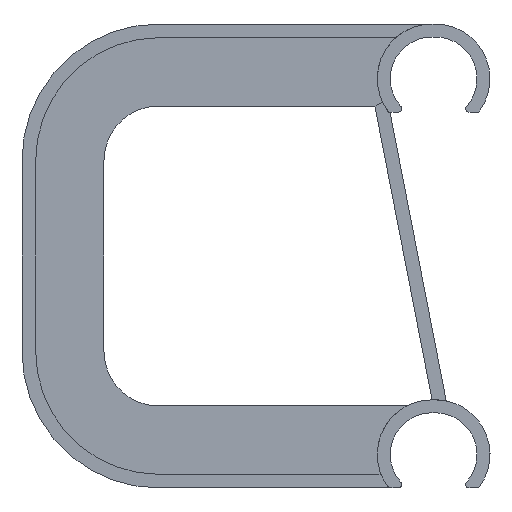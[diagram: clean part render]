
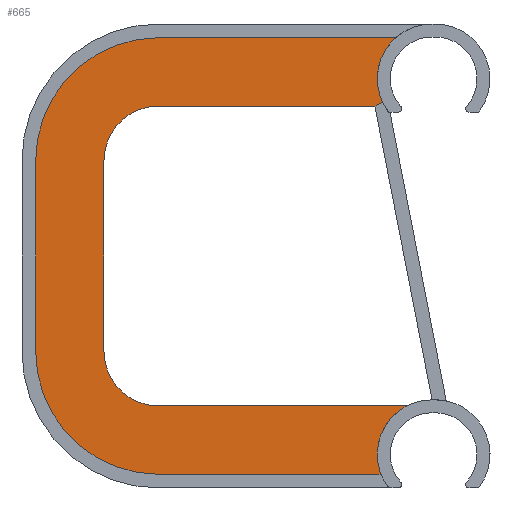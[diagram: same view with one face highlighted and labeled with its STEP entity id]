
A CAD part, front view. The second image highlights one B-rep face of the part: STEP entity #665.
In plain terms, the highlighted planar face has unit normal (0, -1, 0).
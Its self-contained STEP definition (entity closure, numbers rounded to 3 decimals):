
#2 = EDGE_CURVE ( 'NONE', #283, #284, #46, .T. ) ;
#46 = LINE ( 'NONE', #250, #1069 ) ;
#102 = ORIENTED_EDGE ( 'NONE', *, *, #594, .T. ) ;
#103 = ORIENTED_EDGE ( 'NONE', *, *, #239, .T. ) ;
#104 = ORIENTED_EDGE ( 'NONE', *, *, #247, .T. ) ;
#105 = ORIENTED_EDGE ( 'NONE', *, *, #2, .T. ) ;
#106 = ORIENTED_EDGE ( 'NONE', *, *, #246, .T. ) ;
#107 = ORIENTED_EDGE ( 'NONE', *, *, #684, .T. ) ;
#108 = ORIENTED_EDGE ( 'NONE', *, *, #685, .T. ) ;
#109 = ORIENTED_EDGE ( 'NONE', *, *, #686, .T. ) ;
#110 = ORIENTED_EDGE ( 'NONE', *, *, #687, .T. ) ;
#111 = ORIENTED_EDGE ( 'NONE', *, *, #220, .T. ) ;
#112 = ORIENTED_EDGE ( 'NONE', *, *, #601, .T. ) ;
#113 = ORIENTED_EDGE ( 'NONE', *, *, #603, .T. ) ;
#114 = ORIENTED_EDGE ( 'NONE', *, *, #599, .T. ) ;
#220 = EDGE_CURVE ( 'NONE', #335, #363, #1135, .T. ) ;
#239 = EDGE_CURVE ( 'NONE', #251, #282, #1173, .T. ) ;
#246 = EDGE_CURVE ( 'NONE', #284, #285, #1181, .T. ) ;
#247 = EDGE_CURVE ( 'NONE', #282, #283, #1183, .T. ) ;
#250 = CARTESIAN_POINT ( 'NONE',  ( -5.792, 9., 61. ) ) ;
#251 = VERTEX_POINT ( 'NONE', #536 ) ;
#277 = VERTEX_POINT ( 'NONE', #1449 ) ;
#282 = VERTEX_POINT ( 'NONE', #1454 ) ;
#283 = VERTEX_POINT ( 'NONE', #1455 ) ;
#284 = VERTEX_POINT ( 'NONE', #1456 ) ;
#285 = VERTEX_POINT ( 'NONE', #1457 ) ;
#286 = VERTEX_POINT ( 'NONE', #1458 ) ;
#287 = VERTEX_POINT ( 'NONE', #1459 ) ;
#288 = VERTEX_POINT ( 'NONE', #1460 ) ;
#335 = VERTEX_POINT ( 'NONE', #1507 ) ;
#337 = VERTEX_POINT ( 'NONE', #1509 ) ;
#338 = VERTEX_POINT ( 'NONE', #1510 ) ;
#363 = VERTEX_POINT ( 'NONE', #1535 ) ;
#364 = DIRECTION ( 'NONE',  ( -1., 0., 0. ) ) ;
#472 = CARTESIAN_POINT ( 'NONE',  ( -26.25, 9., 7.1 ) ) ;
#475 = DIRECTION ( 'NONE',  ( -1., 0., 0. ) ) ;
#521 = CARTESIAN_POINT ( 'NONE',  ( -8.846, 9., 51. ) ) ;
#522 = DIRECTION ( 'NONE',  ( 0.902, 0., 0.432 ) ) ;
#523 = CARTESIAN_POINT ( 'NONE',  ( -0.5, 9., 55. ) ) ;
#531 = CARTESIAN_POINT ( 'NONE',  ( -40.5, 9., 43. ) ) ;
#533 = DIRECTION ( 'NONE',  ( 0., -1., 0. ) ) ;
#534 = DIRECTION ( 'NONE',  ( 1., 0., 0. ) ) ;
#536 = CARTESIAN_POINT ( 'NONE',  ( -8.846, 9., 51. ) ) ;
#537 = DIRECTION ( 'NONE',  ( 0., 1., 0. ) ) ;
#538 = DIRECTION ( 'NONE',  ( 1., 0., 0. ) ) ;
#594 = EDGE_CURVE ( 'NONE', #277, #251, #1242, .T. ) ;
#599 = EDGE_CURVE ( 'NONE', #338, #277, #1251, .T. ) ;
#601 = EDGE_CURVE ( 'NONE', #363, #337, #1255, .T. ) ;
#603 = EDGE_CURVE ( 'NONE', #337, #338, #1256, .T. ) ;
#665 = ADVANCED_FACE ( 'NONE', ( #1356 ), #1823, .T. ) ;
#684 = EDGE_CURVE ( 'NONE', #285, #286, #1380, .T. ) ;
#685 = EDGE_CURVE ( 'NONE', #286, #287, #1385, .T. ) ;
#686 = EDGE_CURVE ( 'NONE', #287, #288, #1382, .T. ) ;
#687 = EDGE_CURVE ( 'NONE', #288, #335, #1387, .T. ) ;
#747 = AXIS2_PLACEMENT_3D ( 'NONE', #531, #533, #534 ) ;
#749 = AXIS2_PLACEMENT_3D ( 'NONE', #523, #537, #538 ) ;
#759 = AXIS2_PLACEMENT_3D ( 'NONE', #1637, #1639, #1640 ) ;
#762 = AXIS2_PLACEMENT_3D ( 'NONE', #1631, #1632, #1633 ) ;
#766 = AXIS2_PLACEMENT_3D ( 'NONE', #1879, #1883, #1884 ) ;
#769 = AXIS2_PLACEMENT_3D ( 'NONE', #1881, #1888, #1889 ) ;
#805 = AXIS2_PLACEMENT_3D ( 'NONE', #1822, #1825, #1826 ) ;
#931 = EDGE_LOOP ( 'NONE', ( #102, #103, #104, #105, #106, #107, #108, #109, #110, #111, #112, #113, #114 ) ) ;
#1069 = VECTOR ( 'NONE', #364, 1000. ) ;
#1135 = LINE ( 'NONE', #472, #1138 ) ;
#1138 = VECTOR ( 'NONE', #475, 1000. ) ;
#1173 = LINE ( 'NONE', #521, #1174 ) ;
#1174 = VECTOR ( 'NONE', #522, 1000. ) ;
#1181 = CIRCLE ( 'NONE', #747, 18. ) ;
#1183 = CIRCLE ( 'NONE', #749, 8. ) ;
#1242 = LINE ( 'NONE', #1621, #1243 ) ;
#1243 = VECTOR ( 'NONE', #1622, 1000. ) ;
#1251 = CIRCLE ( 'NONE', #762, 8. ) ;
#1253 = VECTOR ( 'NONE', #1644, 1000. ) ;
#1255 = CIRCLE ( 'NONE', #759, 8. ) ;
#1256 = LINE ( 'NONE', #1638, #1253 ) ;
#1356 = FACE_OUTER_BOUND ( 'NONE', #931, .T. ) ;
#1379 = VECTOR ( 'NONE', #1882, 1000. ) ;
#1380 = LINE ( 'NONE', #1875, #1379 ) ;
#1381 = VECTOR ( 'NONE', #1886, 1000. ) ;
#1382 = LINE ( 'NONE', #1885, #1381 ) ;
#1385 = CIRCLE ( 'NONE', #766, 18. ) ;
#1387 = CIRCLE ( 'NONE', #769, 8. ) ;
#1449 = CARTESIAN_POINT ( 'NONE',  ( -40.5, 9., 51. ) ) ;
#1454 = CARTESIAN_POINT ( 'NONE',  ( -7.714, 9., 51.542 ) ) ;
#1455 = CARTESIAN_POINT ( 'NONE',  ( -5.792, 9., 61. ) ) ;
#1456 = CARTESIAN_POINT ( 'NONE',  ( -40.5, 9., 61. ) ) ;
#1457 = CARTESIAN_POINT ( 'NONE',  ( -58.5, 9., 43. ) ) ;
#1458 = CARTESIAN_POINT ( 'NONE',  ( -58.5, 9., 15.1 ) ) ;
#1459 = CARTESIAN_POINT ( 'NONE',  ( -40.5, 9., -2.9 ) ) ;
#1460 = CARTESIAN_POINT ( 'NONE',  ( -7.956, 9., -2.9 ) ) ;
#1507 = CARTESIAN_POINT ( 'NONE',  ( -4.186, 9., 7.1 ) ) ;
#1509 = CARTESIAN_POINT ( 'NONE',  ( -48.5, 9., 15.1 ) ) ;
#1510 = CARTESIAN_POINT ( 'NONE',  ( -48.5, 9., 43. ) ) ;
#1535 = CARTESIAN_POINT ( 'NONE',  ( -40.5, 9., 7.1 ) ) ;
#1621 = CARTESIAN_POINT ( 'NONE',  ( -26.25, 9., 51. ) ) ;
#1622 = DIRECTION ( 'NONE',  ( 1., 0., 0. ) ) ;
#1631 = CARTESIAN_POINT ( 'NONE',  ( -40.5, 9., 43. ) ) ;
#1632 = DIRECTION ( 'NONE',  ( 0., 1., 0. ) ) ;
#1633 = DIRECTION ( 'NONE',  ( 1., 0., 0. ) ) ;
#1637 = CARTESIAN_POINT ( 'NONE',  ( -40.5, 9., 15.1 ) ) ;
#1638 = CARTESIAN_POINT ( 'NONE',  ( -48.5, 9., -46.112 ) ) ;
#1639 = DIRECTION ( 'NONE',  ( 0., 1., 0. ) ) ;
#1640 = DIRECTION ( 'NONE',  ( 1., 0., 0. ) ) ;
#1644 = DIRECTION ( 'NONE',  ( 0., 0., 1. ) ) ;
#1822 = CARTESIAN_POINT ( 'NONE',  ( -0.5, 9., 55. ) ) ;
#1823 = PLANE ( 'NONE',  #805 ) ;
#1825 = DIRECTION ( 'NONE',  ( 0., -1., 0. ) ) ;
#1826 = DIRECTION ( 'NONE',  ( 1., 0., 0. ) ) ;
#1875 = CARTESIAN_POINT ( 'NONE',  ( -58.5, 9., 43. ) ) ;
#1879 = CARTESIAN_POINT ( 'NONE',  ( -40.5, 9., 15.1 ) ) ;
#1881 = CARTESIAN_POINT ( 'NONE',  ( -0.5, 9., 0. ) ) ;
#1882 = DIRECTION ( 'NONE',  ( 0., 0., -1. ) ) ;
#1883 = DIRECTION ( 'NONE',  ( 0., -1., 0. ) ) ;
#1884 = DIRECTION ( 'NONE',  ( 1., 0., 0. ) ) ;
#1885 = CARTESIAN_POINT ( 'NONE',  ( -40.5, 9., -2.9 ) ) ;
#1886 = DIRECTION ( 'NONE',  ( 1., 0., 0. ) ) ;
#1888 = DIRECTION ( 'NONE',  ( 0., 1., 0. ) ) ;
#1889 = DIRECTION ( 'NONE',  ( 1., 0., 0. ) ) ;
